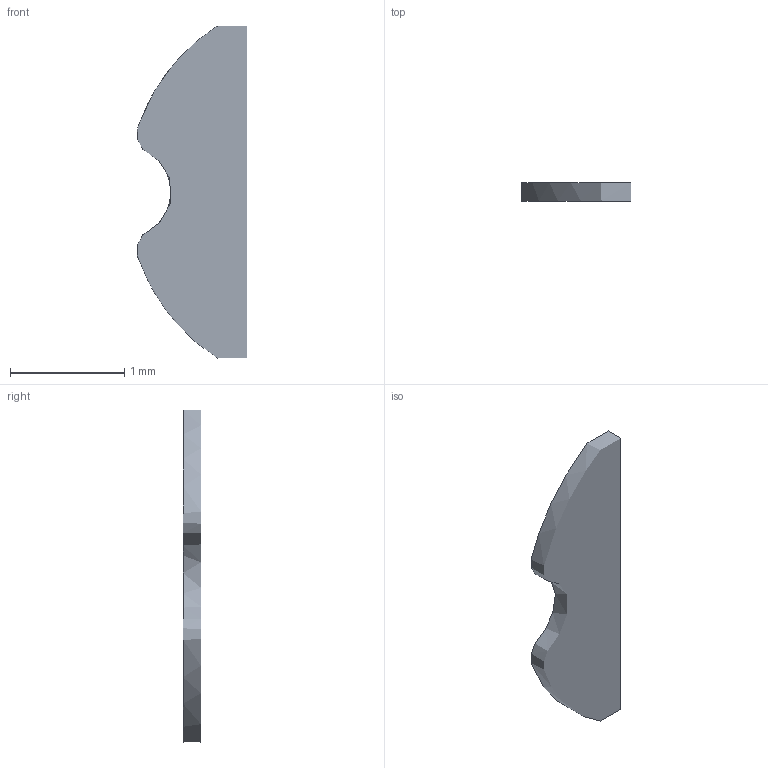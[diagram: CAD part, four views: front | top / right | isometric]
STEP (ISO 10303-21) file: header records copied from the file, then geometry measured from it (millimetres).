
FILE_DESCRIPTION(/* description */ ('STEP AP242 Edition 2','CAx-IF Rec.Pracs.---Representation and Presentation of Product Manufacturing Information (PMI)---4.0---2014-10-13','CAx-IF Rec.Pracs.---3D Tessellated Geometry---0.4---2014-09-14','2;1','CAx-IF Rec.Pracs.---User Defined Attributes---1.5---2016-08-15'),/* implementation_level */ '2;1');
FILE_NAME(/* name */ 'Assembly 1 - Part 80',/* time_stamp */ '2026-03-29T21:14:58Z',/* author */ (''),/* organization */ (''),/* preprocessor_version */ 'ST-DEVELOPER v20',/* originating_system */ 'ONSHAPE BY PTC INC, 1.212',/* authorisation */ ' ');
FILE_SCHEMA (('AP242_MANAGED_MODEL_BASED_3D_ENGINEERING_MIM_LF { 1 0 10303 442 3 1 4 }'));
Length unit declared in the file: metre
Products named in the file (1): Part 80
Bounding box: 0.96 x 0.16 x 2.91 mm (x, y, z)
Surface area: 5.4 mm2 (no closed solid volume)
Topology: 0 solids, 1 shells, 1 faces, 0 edges, 0 vertices
Faces by surface type: other 1
Entity records: 31 total; most frequent: DIRECTION 2, SHAPE_REPRESENTATION_RELATIONSHIP 1, TESSELLATED_SHAPE_REPRESENTATION 1, STYLED_ITEM 1, PRESENTATION_STYLE_ASSIGNMENT 1, SURFACE_STYLE_USAGE 1, SURFACE_SIDE_STYLE 1, SURFACE_STYLE_FILL_AREA 1
